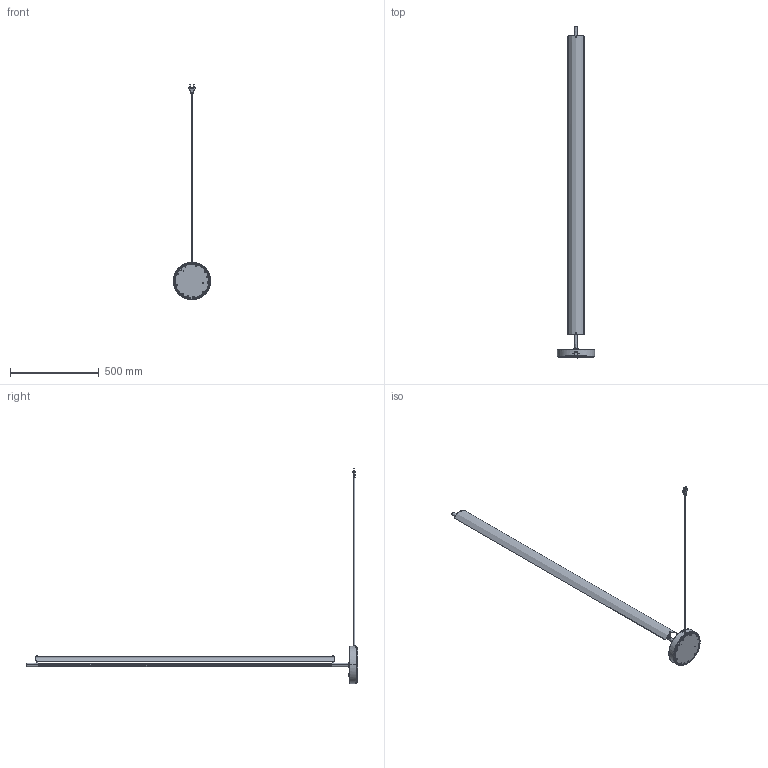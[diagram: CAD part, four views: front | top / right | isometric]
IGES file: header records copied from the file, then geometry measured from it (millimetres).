
Start section: SolidWorks IGES file using analytic representation for surfaces
Global section: file name: C:\SANTACOLE_PDM\Proyectos Catálogo\PROD-P21-004 -- LAMINA VERTICAL\6_Técnico comercial\3D\IGES - web\Lamina 165 pie.IGS; native system: SolidWorks 2021; preprocessor: SolidWorks 2021; author: clara.galimany; date: 240628.122843; units: millimetre
Bounding box: 210 x 1875.3 x 1214.84 mm (x, y, z)
Surface area: 862948.2 mm2 (no closed solid volume)
Topology: 0 solids, 0 shells, 654 faces, 8442 edges, 8416 vertices
Faces by surface type: bspline 337, revolution 317
